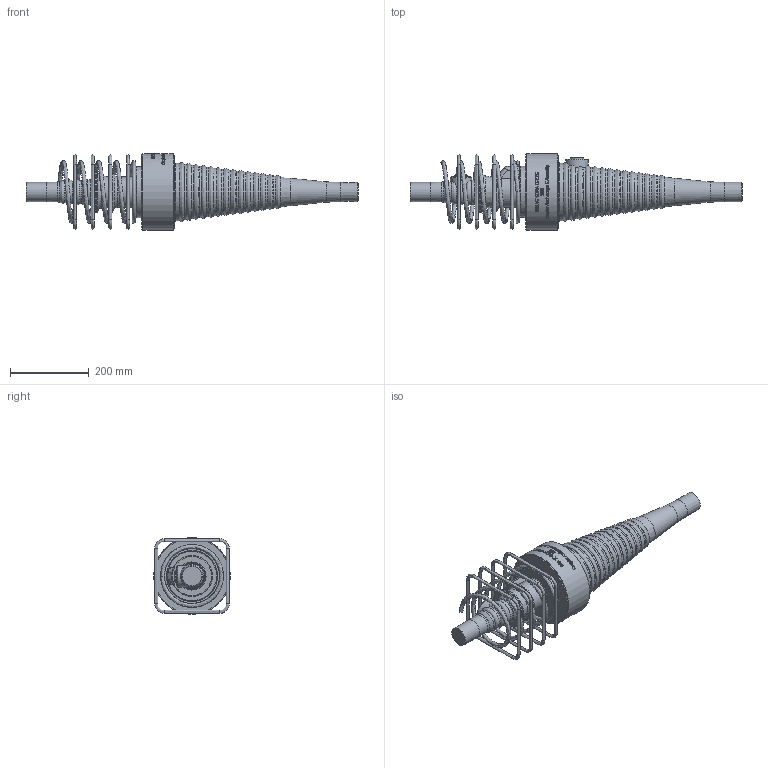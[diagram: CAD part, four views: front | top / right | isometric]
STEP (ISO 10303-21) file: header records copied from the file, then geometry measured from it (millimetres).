
FILE_DESCRIPTION(/* description */ (''),/* implementation_level */ '2;1');
FILE_NAME(/* name */ 'Z:\04 Publications\05 Give-out\BBR\6_3D_Models\BBR VT CONA CMI\BBR VT CONA CMI BT\00306\BBR VT CONA CMI BT 306_Couler K Assembly_CS-34,28.stp',/* time_stamp */ '2017-05-04T16:13:01+02:00',/* author */ ('IP'),/* organization */ (''),/* preprocessor_version */ 'ST-DEVELOPER v16.1',/* originating_system */ 'Autodesk Inventor 2016',/* authorisation */ '');
FILE_SCHEMA (('AUTOMOTIVE_DESIGN { 1 0 10303 214 3 1 1 }'));
Products named in the file (1): BBR VT CONA CMI BT 306_Couler K Assembly_CS-34,28
Bounding box: 845.07 x 195 x 195.1 mm (x, y, z)
Volume: 4392333.3 mm3; surface area: 641080.3 mm2
Topology: 7 solids, 7 shells, 1019 faces, 2587 edges, 1634 vertices
Faces by surface type: bspline 462, plane 258, torus 142, cylinder 100, cone 45, sphere 12
Full cylindrical faces by diameter (mm): 8 x16, 32 x1, 34.158 x1, 49 x1, 50 x1, 55 x1, 57 x1, 104 x2, 130 x1, 192 x1, 195 x1
Entity records: 43517 total; most frequent: CARTESIAN_POINT 22164, ORIENTED_EDGE 4770, DIRECTION 3171, EDGE_CURVE 2385, VERTEX_POINT 1614, EDGE_LOOP 1261, AXIS2_PLACEMENT_3D 1151, FACE_OUTER_BOUND 1018
